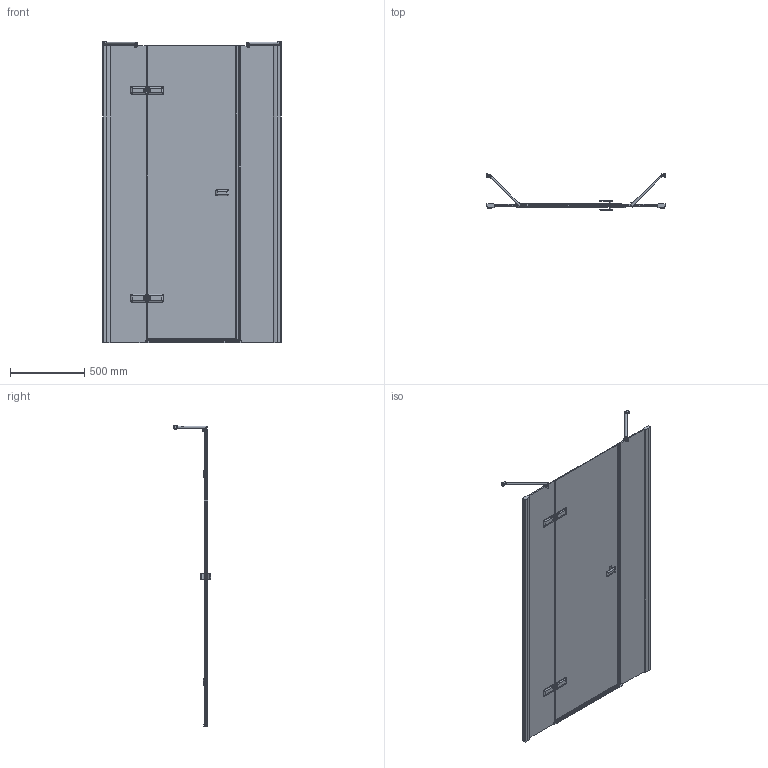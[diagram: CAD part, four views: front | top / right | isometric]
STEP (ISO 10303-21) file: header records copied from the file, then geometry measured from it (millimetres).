
FILE_DESCRIPTION(/* description */ (''),/* implementation_level */ '2;1');
FILE_NAME(/* name */ 'E:\Работа\Сергей\Душевые кабинки\! Работа\TREND DOOR GK-863PONE\TREND DOOR GK-862APONE левая модель\TREND DOOR GK-863PONE ЛЕВАЯ-3D.stp',/* time_stamp */ '2018-03-25T19:00:30+03:00',/* author */ ('PC'),/* organization */ (''),/* preprocessor_version */ 'ST-DEVELOPER v15.2',/* originating_system */ 'Autodesk Inventor 2014',/* authorisation */ '');
FILE_SCHEMA (('AUTOMOTIVE_DESIGN { 1 0 10303 214 3 1 1 }'));
Products named in the file (1): TREND DOOR GK-863PONE ЛЕВАЯ-3D
Bounding box: 1200.27 x 249.9 x 2031.5 mm (x, y, z)
Volume: 20759660.3 mm3; surface area: 5226690.6 mm2
Topology: 9 solids, 9 shells, 1334 faces, 3535 edges, 2186 vertices
Faces by surface type: plane 818, cylinder 314, bspline 138, torus 32, cone 18, sphere 14
Full cylindrical faces by diameter (mm): 6 x2, 9 x8, 12 x2, 13 x2, 15 x2, 20 x4, 26 x2
Entity records: 57932 total; most frequent: CARTESIAN_POINT 24479, ORIENTED_EDGE 6850, DIRECTION 6458, EDGE_CURVE 3425, VERTEX_POINT 2156, AXIS2_PLACEMENT_3D 2156, LINE 2146, VECTOR 2146
